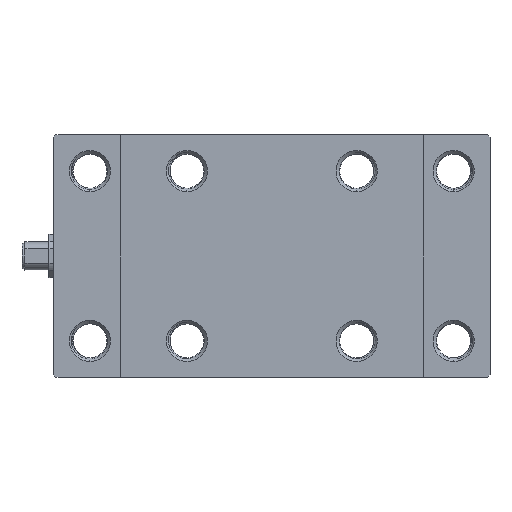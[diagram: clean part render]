
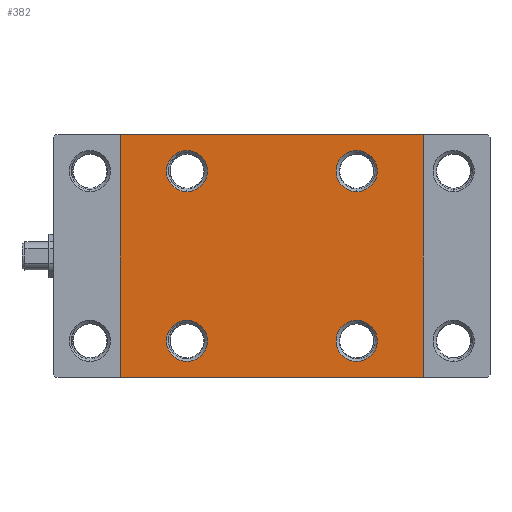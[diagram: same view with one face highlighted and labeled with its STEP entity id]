
A CAD part, front view. The second image highlights one B-rep face of the part: STEP entity #382.
In plain terms, the highlighted planar face has unit normal (0, -1, 0).
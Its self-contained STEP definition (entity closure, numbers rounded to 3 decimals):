
#382 = ADVANCED_FACE ( 'NONE', ( #5290, #16111, #25976, #19524, #12654 ), #11966, .T. ) ;
#821 = DIRECTION ( 'NONE',  ( 0., 1., 0. ) ) ;
#1254 = VERTEX_POINT ( 'NONE', #26272 ) ;
#1300 = CARTESIAN_POINT ( 'NONE',  ( 35., 1.3, -35. ) ) ;
#1375 = DIRECTION ( 'NONE',  ( 0., 1., 0. ) ) ;
#1388 = LINE ( 'NONE', #19537, #8803 ) ;
#1679 = EDGE_CURVE ( 'NONE', #25917, #37308, #8018, .T. ) ;
#2069 = DIRECTION ( 'NONE',  ( -1., 0., 0. ) ) ;
#2139 = CIRCLE ( 'NONE', #23411, 8.5 ) ;
#2307 = EDGE_CURVE ( 'NONE', #34293, #22390, #16086, .T. ) ;
#3059 = VECTOR ( 'NONE', #4923, 1000. ) ;
#3477 = EDGE_LOOP ( 'NONE', ( #27007, #17855 ) ) ;
#3501 = DIRECTION ( 'NONE',  ( 0., 1., 0. ) ) ;
#3964 = DIRECTION ( 'NONE',  ( 0., 0., 1. ) ) ;
#4204 = CARTESIAN_POINT ( 'NONE',  ( 35., 1.3, 43.5 ) ) ;
#4414 = CARTESIAN_POINT ( 'NONE',  ( 35., 1.3, -35. ) ) ;
#4923 = DIRECTION ( 'NONE',  ( 0., 0., 1. ) ) ;
#4978 = DIRECTION ( 'NONE',  ( 0., 0., 1. ) ) ;
#5209 = VERTEX_POINT ( 'NONE', #36949 ) ;
#5290 = FACE_BOUND ( 'NONE', #3477, .T. ) ;
#6547 = CIRCLE ( 'NONE', #38795, 8.5 ) ;
#6709 = AXIS2_PLACEMENT_3D ( 'NONE', #1300, #22682, #4978 ) ;
#6774 = VERTEX_POINT ( 'NONE', #40107 ) ;
#7409 = DIRECTION ( 'NONE',  ( 0., 0., 1. ) ) ;
#7426 = AXIS2_PLACEMENT_3D ( 'NONE', #19988, #33073, #9413 ) ;
#7941 = DIRECTION ( 'NONE',  ( 0., 0., 1. ) ) ;
#8018 = LINE ( 'NONE', #33245, #19058 ) ;
#8803 = VECTOR ( 'NONE', #2069, 1000. ) ;
#9201 = CARTESIAN_POINT ( 'NONE',  ( -62.5, 1.3, 50. ) ) ;
#9413 = DIRECTION ( 'NONE',  ( 0., 0., -1. ) ) ;
#9680 = CARTESIAN_POINT ( 'NONE',  ( -62.5, 1.3, 50. ) ) ;
#10187 = VERTEX_POINT ( 'NONE', #14100 ) ;
#10341 = EDGE_CURVE ( 'NONE', #38166, #5209, #24125, .T. ) ;
#11966 = PLANE ( 'NONE',  #7426 ) ;
#12376 = CIRCLE ( 'NONE', #28518, 8.5 ) ;
#12654 = FACE_OUTER_BOUND ( 'NONE', #35084, .T. ) ;
#13737 = EDGE_LOOP ( 'NONE', ( #38363, #27223 ) ) ;
#13821 = AXIS2_PLACEMENT_3D ( 'NONE', #14627, #821, #7941 ) ;
#14100 = CARTESIAN_POINT ( 'NONE',  ( 35., 1.3, 26.5 ) ) ;
#14591 = AXIS2_PLACEMENT_3D ( 'NONE', #4414, #3501, #3964 ) ;
#14627 = CARTESIAN_POINT ( 'NONE',  ( 35., 1.3, 35. ) ) ;
#14997 = ORIENTED_EDGE ( 'NONE', *, *, #45215, .T. ) ;
#15791 = ORIENTED_EDGE ( 'NONE', *, *, #43276, .T. ) ;
#15806 = DIRECTION ( 'NONE',  ( 0., 1., 0. ) ) ;
#16086 = CIRCLE ( 'NONE', #38052, 8.5 ) ;
#16111 = FACE_BOUND ( 'NONE', #13737, .T. ) ;
#17499 = VERTEX_POINT ( 'NONE', #4204 ) ;
#17681 = EDGE_LOOP ( 'NONE', ( #44744, #22912 ) ) ;
#17855 = ORIENTED_EDGE ( 'NONE', *, *, #36301, .T. ) ;
#18043 = CARTESIAN_POINT ( 'NONE',  ( 35., 1.3, -43.5 ) ) ;
#18178 = CARTESIAN_POINT ( 'NONE',  ( 35., 1.3, 35. ) ) ;
#18414 = DIRECTION ( 'NONE',  ( 0., 0., 1. ) ) ;
#18764 = EDGE_CURVE ( 'NONE', #22390, #34293, #2139, .T. ) ;
#18777 = CARTESIAN_POINT ( 'NONE',  ( -35., 1.3, -35. ) ) ;
#19058 = VECTOR ( 'NONE', #29377, 1000. ) ;
#19524 = FACE_BOUND ( 'NONE', #17681, .T. ) ;
#19537 = CARTESIAN_POINT ( 'NONE',  ( -62.5, 1.3, 50. ) ) ;
#19988 = CARTESIAN_POINT ( 'NONE',  ( 0., 1.3, 0. ) ) ;
#20961 = CARTESIAN_POINT ( 'NONE',  ( -35., 1.3, 35. ) ) ;
#22390 = VERTEX_POINT ( 'NONE', #34511 ) ;
#22682 = DIRECTION ( 'NONE',  ( 0., 1., 0. ) ) ;
#22736 = EDGE_CURVE ( 'NONE', #42664, #25069, #1388, .T. ) ;
#22912 = ORIENTED_EDGE ( 'NONE', *, *, #2307, .T. ) ;
#23411 = AXIS2_PLACEMENT_3D ( 'NONE', #27527, #28878, #39439 ) ;
#23527 = VECTOR ( 'NONE', #41606, 1000. ) ;
#23677 = CARTESIAN_POINT ( 'NONE',  ( 62.5, 1.3, -50. ) ) ;
#24125 = CIRCLE ( 'NONE', #14591, 8.5 ) ;
#24972 = AXIS2_PLACEMENT_3D ( 'NONE', #18178, #1375, #18414 ) ;
#25069 = VERTEX_POINT ( 'NONE', #9201 ) ;
#25514 = ORIENTED_EDGE ( 'NONE', *, *, #1679, .T. ) ;
#25665 = CARTESIAN_POINT ( 'NONE',  ( -62.5, 1.3, -50. ) ) ;
#25917 = VERTEX_POINT ( 'NONE', #25665 ) ;
#25976 = FACE_BOUND ( 'NONE', #30313, .T. ) ;
#26272 = CARTESIAN_POINT ( 'NONE',  ( -35., 1.3, -43.5 ) ) ;
#26707 = LINE ( 'NONE', #9680, #23527 ) ;
#27007 = ORIENTED_EDGE ( 'NONE', *, *, #39238, .T. ) ;
#27223 = ORIENTED_EDGE ( 'NONE', *, *, #42875, .T. ) ;
#27527 = CARTESIAN_POINT ( 'NONE',  ( -35., 1.3, 35. ) ) ;
#28518 = AXIS2_PLACEMENT_3D ( 'NONE', #18777, #15806, #40138 ) ;
#28590 = ORIENTED_EDGE ( 'NONE', *, *, #43799, .T. ) ;
#28878 = DIRECTION ( 'NONE',  ( 0., 1., 0. ) ) ;
#29377 = DIRECTION ( 'NONE',  ( 1., 0., 0. ) ) ;
#30313 = EDGE_LOOP ( 'NONE', ( #30583, #28590 ) ) ;
#30583 = ORIENTED_EDGE ( 'NONE', *, *, #36725, .T. ) ;
#31878 = CARTESIAN_POINT ( 'NONE',  ( -35., 1.3, -35. ) ) ;
#33073 = DIRECTION ( 'NONE',  ( 0., -1., 0. ) ) ;
#33245 = CARTESIAN_POINT ( 'NONE',  ( -62.5, 1.3, -50. ) ) ;
#33602 = CIRCLE ( 'NONE', #13821, 8.5 ) ;
#33720 = CARTESIAN_POINT ( 'NONE',  ( -35., 1.3, 43.5 ) ) ;
#34293 = VERTEX_POINT ( 'NONE', #33720 ) ;
#34511 = CARTESIAN_POINT ( 'NONE',  ( -35., 1.3, 26.5 ) ) ;
#35084 = EDGE_LOOP ( 'NONE', ( #14997, #25514, #15791, #40740 ) ) ;
#35987 = DIRECTION ( 'NONE',  ( 0., 1., 0. ) ) ;
#36301 = EDGE_CURVE ( 'NONE', #6774, #1254, #12376, .T. ) ;
#36378 = LINE ( 'NONE', #40564, #3059 ) ;
#36725 = EDGE_CURVE ( 'NONE', #10187, #17499, #33602, .T. ) ;
#36949 = CARTESIAN_POINT ( 'NONE',  ( 35., 1.3, -26.5 ) ) ;
#37308 = VERTEX_POINT ( 'NONE', #23677 ) ;
#37402 = CIRCLE ( 'NONE', #24972, 8.5 ) ;
#38052 = AXIS2_PLACEMENT_3D ( 'NONE', #20961, #45340, #7409 ) ;
#38166 = VERTEX_POINT ( 'NONE', #18043 ) ;
#38363 = ORIENTED_EDGE ( 'NONE', *, *, #10341, .T. ) ;
#38795 = AXIS2_PLACEMENT_3D ( 'NONE', #31878, #35987, #39696 ) ;
#39238 = EDGE_CURVE ( 'NONE', #1254, #6774, #6547, .T. ) ;
#39439 = DIRECTION ( 'NONE',  ( 0., 0., 1. ) ) ;
#39696 = DIRECTION ( 'NONE',  ( 0., 0., 1. ) ) ;
#40107 = CARTESIAN_POINT ( 'NONE',  ( -35., 1.3, -26.5 ) ) ;
#40138 = DIRECTION ( 'NONE',  ( 0., 0., 1. ) ) ;
#40467 = CIRCLE ( 'NONE', #6709, 8.5 ) ;
#40564 = CARTESIAN_POINT ( 'NONE',  ( 62.5, 1.3, 50. ) ) ;
#40740 = ORIENTED_EDGE ( 'NONE', *, *, #22736, .T. ) ;
#41606 = DIRECTION ( 'NONE',  ( 0., 0., -1. ) ) ;
#42254 = CARTESIAN_POINT ( 'NONE',  ( 62.5, 1.3, 50. ) ) ;
#42664 = VERTEX_POINT ( 'NONE', #42254 ) ;
#42875 = EDGE_CURVE ( 'NONE', #5209, #38166, #40467, .T. ) ;
#43276 = EDGE_CURVE ( 'NONE', #37308, #42664, #36378, .T. ) ;
#43799 = EDGE_CURVE ( 'NONE', #17499, #10187, #37402, .T. ) ;
#44744 = ORIENTED_EDGE ( 'NONE', *, *, #18764, .T. ) ;
#45215 = EDGE_CURVE ( 'NONE', #25069, #25917, #26707, .T. ) ;
#45340 = DIRECTION ( 'NONE',  ( 0., 1., 0. ) ) ;
